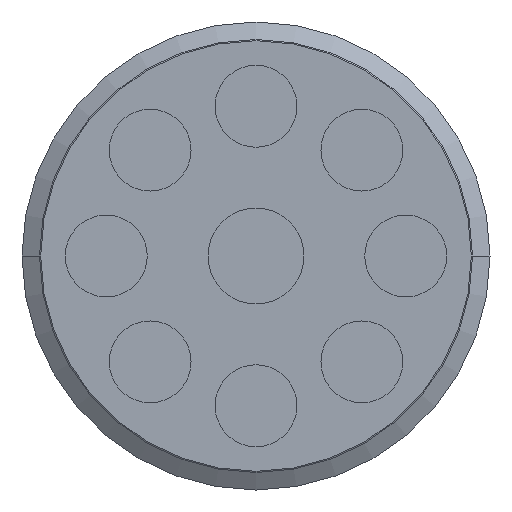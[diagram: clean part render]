
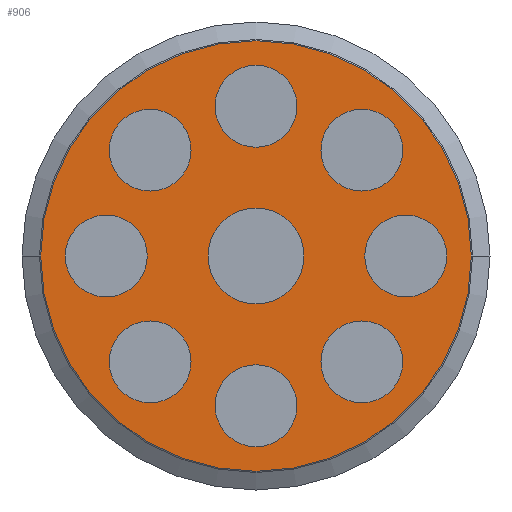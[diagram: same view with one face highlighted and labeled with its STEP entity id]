
A CAD part, left-side view. The second image highlights one B-rep face of the part: STEP entity #906.
In plain terms, the highlighted planar face has unit normal (-1, 0, 0).
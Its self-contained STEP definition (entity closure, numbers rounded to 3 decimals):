
#16=CARTESIAN_POINT('',(0.,0.,0.));
#17=DIRECTION('',(1.,0.,0.));
#18=DIRECTION('',(0.,1.,0.));
#19=AXIS2_PLACEMENT_3D('',#16,#17,#18);
#39=CARTESIAN_POINT('',(0.,0.,0.));
#40=DIRECTION('',(-1.,0.,0.));
#41=DIRECTION('',(0.,1.,0.));
#42=AXIS2_PLACEMENT_3D('',#39,#40,#41);
#63=CARTESIAN_POINT('',(0.,0.,0.));
#64=DIRECTION('',(1.,0.,0.));
#65=DIRECTION('',(0.,1.,0.));
#66=AXIS2_PLACEMENT_3D('',#63,#64,#65);
#71=CARTESIAN_POINT('',(0.,0.,0.));
#72=DIRECTION('',(-1.,0.,0.));
#73=DIRECTION('',(0.,1.,0.));
#74=AXIS2_PLACEMENT_3D('',#71,#72,#73);
#79=CARTESIAN_POINT('',(0.,-4.525,-4.525));
#80=DIRECTION('',(-1.,0.,0.));
#81=DIRECTION('',(0.,1.,0.));
#82=AXIS2_PLACEMENT_3D('',#79,#80,#81);
#87=CARTESIAN_POINT('',(0.,-4.525,-4.525));
#88=DIRECTION('',(-1.,0.,0.));
#89=DIRECTION('',(0.,-1.,0.));
#90=AXIS2_PLACEMENT_3D('',#87,#88,#89);
#95=CARTESIAN_POINT('',(0.,0.,-6.4));
#96=DIRECTION('',(-1.,0.,0.));
#97=DIRECTION('',(0.,1.,0.));
#98=AXIS2_PLACEMENT_3D('',#95,#96,#97);
#103=CARTESIAN_POINT('',(0.,0.,-6.4));
#104=DIRECTION('',(-1.,0.,0.));
#105=DIRECTION('',(0.,-1.,0.));
#106=AXIS2_PLACEMENT_3D('',#103,#104,#105);
#111=CARTESIAN_POINT('',(0.,4.525,-4.525));
#112=DIRECTION('',(-1.,0.,0.));
#113=DIRECTION('',(0.,1.,0.));
#114=AXIS2_PLACEMENT_3D('',#111,#112,#113);
#119=CARTESIAN_POINT('',(0.,4.525,-4.525));
#120=DIRECTION('',(-1.,0.,0.));
#121=DIRECTION('',(0.,-1.,0.));
#122=AXIS2_PLACEMENT_3D('',#119,#120,#121);
#127=CARTESIAN_POINT('',(0.,6.4,0.));
#128=DIRECTION('',(-1.,0.,0.));
#129=DIRECTION('',(0.,1.,0.));
#130=AXIS2_PLACEMENT_3D('',#127,#128,#129);
#135=CARTESIAN_POINT('',(0.,6.4,0.));
#136=DIRECTION('',(-1.,0.,0.));
#137=DIRECTION('',(0.,-1.,0.));
#138=AXIS2_PLACEMENT_3D('',#135,#136,#137);
#143=CARTESIAN_POINT('',(0.,4.525,4.525));
#144=DIRECTION('',(-1.,0.,0.));
#145=DIRECTION('',(0.,1.,0.));
#146=AXIS2_PLACEMENT_3D('',#143,#144,#145);
#151=CARTESIAN_POINT('',(0.,4.525,4.525));
#152=DIRECTION('',(-1.,0.,0.));
#153=DIRECTION('',(0.,-1.,0.));
#154=AXIS2_PLACEMENT_3D('',#151,#152,#153);
#159=CARTESIAN_POINT('',(0.,0.,6.4));
#160=DIRECTION('',(-1.,0.,0.));
#161=DIRECTION('',(0.,1.,0.));
#162=AXIS2_PLACEMENT_3D('',#159,#160,#161);
#167=CARTESIAN_POINT('',(0.,0.,6.4));
#168=DIRECTION('',(-1.,0.,0.));
#169=DIRECTION('',(0.,-1.,0.));
#170=AXIS2_PLACEMENT_3D('',#167,#168,#169);
#175=CARTESIAN_POINT('',(0.,-4.525,4.525));
#176=DIRECTION('',(-1.,0.,0.));
#177=DIRECTION('',(0.,1.,0.));
#178=AXIS2_PLACEMENT_3D('',#175,#176,#177);
#183=CARTESIAN_POINT('',(0.,-4.525,4.525));
#184=DIRECTION('',(-1.,0.,0.));
#185=DIRECTION('',(0.,-1.,0.));
#186=AXIS2_PLACEMENT_3D('',#183,#184,#185);
#191=CARTESIAN_POINT('',(0.,-6.4,0.));
#192=DIRECTION('',(-1.,0.,0.));
#193=DIRECTION('',(0.,1.,0.));
#194=AXIS2_PLACEMENT_3D('',#191,#192,#193);
#199=CARTESIAN_POINT('',(0.,-6.4,0.));
#200=DIRECTION('',(-1.,0.,0.));
#201=DIRECTION('',(0.,-1.,0.));
#202=AXIS2_PLACEMENT_3D('',#199,#200,#201);
#739=CARTESIAN_POINT('',(0.,-2.775,-4.525));
#740=CARTESIAN_POINT('',(0.,-6.275,-4.525));
#741=VERTEX_POINT('',#739);
#742=VERTEX_POINT('',#740);
#743=CARTESIAN_POINT('',(0.,1.75,-6.4));
#744=CARTESIAN_POINT('',(0.,-1.75,-6.4));
#745=VERTEX_POINT('',#743);
#746=VERTEX_POINT('',#744);
#747=CARTESIAN_POINT('',(0.,6.275,-4.525));
#748=CARTESIAN_POINT('',(0.,2.775,-4.525));
#749=VERTEX_POINT('',#747);
#750=VERTEX_POINT('',#748);
#751=CARTESIAN_POINT('',(0.,8.15,0.));
#752=CARTESIAN_POINT('',(0.,4.65,0.));
#753=VERTEX_POINT('',#751);
#754=VERTEX_POINT('',#752);
#755=CARTESIAN_POINT('',(0.,6.275,4.525));
#756=CARTESIAN_POINT('',(0.,2.775,4.525));
#757=VERTEX_POINT('',#755);
#758=VERTEX_POINT('',#756);
#759=CARTESIAN_POINT('',(0.,1.75,6.4));
#760=CARTESIAN_POINT('',(0.,-1.75,6.4));
#761=VERTEX_POINT('',#759);
#762=VERTEX_POINT('',#760);
#763=CARTESIAN_POINT('',(0.,-2.775,4.525));
#764=CARTESIAN_POINT('',(0.,-6.275,4.525));
#765=VERTEX_POINT('',#763);
#766=VERTEX_POINT('',#764);
#767=CARTESIAN_POINT('',(0.,-4.65,0.));
#768=CARTESIAN_POINT('',(0.,-8.15,0.));
#769=VERTEX_POINT('',#767);
#770=VERTEX_POINT('',#768);
#771=CARTESIAN_POINT('',(0.,9.2,0.));
#772=VERTEX_POINT('',#771);
#773=CARTESIAN_POINT('',(0.,-9.2,0.));
#774=VERTEX_POINT('',#773);
#795=CARTESIAN_POINT('',(0.,2.05,0.));
#797=VERTEX_POINT('',#795);
#799=CARTESIAN_POINT('',(0.,-2.05,0.));
#801=VERTEX_POINT('',#799);
#843=CARTESIAN_POINT('',(0.,0.,0.));
#844=DIRECTION('',(1.,0.,0.));
#845=DIRECTION('',(0.,-1.,0.));
#846=AXIS2_PLACEMENT_3D('',#843,#844,#845);
#847=PLANE('',#846);
#849=ORIENTED_EDGE('',*,*,#848,.T.);
#851=ORIENTED_EDGE('',*,*,#850,.F.);
#852=EDGE_LOOP('',(#849,#851));
#853=FACE_OUTER_BOUND('',#852,.F.);
#854=ORIENTED_EDGE('',*,*,#828,.T.);
#855=ORIENTED_EDGE('',*,*,#810,.F.);
#856=EDGE_LOOP('',(#854,#855));
#857=FACE_BOUND('',#856,.F.);
#859=ORIENTED_EDGE('',*,*,#858,.T.);
#861=ORIENTED_EDGE('',*,*,#860,.T.);
#862=EDGE_LOOP('',(#859,#861));
#863=FACE_BOUND('',#862,.F.);
#865=ORIENTED_EDGE('',*,*,#864,.T.);
#867=ORIENTED_EDGE('',*,*,#866,.T.);
#868=EDGE_LOOP('',(#865,#867));
#869=FACE_BOUND('',#868,.F.);
#871=ORIENTED_EDGE('',*,*,#870,.T.);
#873=ORIENTED_EDGE('',*,*,#872,.T.);
#874=EDGE_LOOP('',(#871,#873));
#875=FACE_BOUND('',#874,.F.);
#877=ORIENTED_EDGE('',*,*,#876,.T.);
#879=ORIENTED_EDGE('',*,*,#878,.T.);
#880=EDGE_LOOP('',(#877,#879));
#881=FACE_BOUND('',#880,.F.);
#883=ORIENTED_EDGE('',*,*,#882,.T.);
#885=ORIENTED_EDGE('',*,*,#884,.T.);
#886=EDGE_LOOP('',(#883,#885));
#887=FACE_BOUND('',#886,.F.);
#889=ORIENTED_EDGE('',*,*,#888,.T.);
#891=ORIENTED_EDGE('',*,*,#890,.T.);
#892=EDGE_LOOP('',(#889,#891));
#893=FACE_BOUND('',#892,.F.);
#895=ORIENTED_EDGE('',*,*,#894,.T.);
#897=ORIENTED_EDGE('',*,*,#896,.T.);
#898=EDGE_LOOP('',(#895,#897));
#899=FACE_BOUND('',#898,.F.);
#901=ORIENTED_EDGE('',*,*,#900,.T.);
#903=ORIENTED_EDGE('',*,*,#902,.T.);
#904=EDGE_LOOP('',(#901,#903));
#905=FACE_BOUND('',#904,.F.);
#20=CIRCLE('',#19,2.05);
#43=CIRCLE('',#42,2.05);
#67=CIRCLE('',#66,9.2);
#75=CIRCLE('',#74,9.2);
#83=CIRCLE('',#82,1.75);
#91=CIRCLE('',#90,1.75);
#99=CIRCLE('',#98,1.75);
#107=CIRCLE('',#106,1.75);
#115=CIRCLE('',#114,1.75);
#123=CIRCLE('',#122,1.75);
#131=CIRCLE('',#130,1.75);
#139=CIRCLE('',#138,1.75);
#147=CIRCLE('',#146,1.75);
#155=CIRCLE('',#154,1.75);
#163=CIRCLE('',#162,1.75);
#171=CIRCLE('',#170,1.75);
#179=CIRCLE('',#178,1.75);
#187=CIRCLE('',#186,1.75);
#195=CIRCLE('',#194,1.75);
#203=CIRCLE('',#202,1.75);
#810=EDGE_CURVE('',#797,#801,#20,.T.);
#828=EDGE_CURVE('',#797,#801,#43,.T.);
#848=EDGE_CURVE('',#772,#774,#67,.T.);
#850=EDGE_CURVE('',#772,#774,#75,.T.);
#858=EDGE_CURVE('',#741,#742,#83,.T.);
#860=EDGE_CURVE('',#742,#741,#91,.T.);
#864=EDGE_CURVE('',#745,#746,#99,.T.);
#866=EDGE_CURVE('',#746,#745,#107,.T.);
#870=EDGE_CURVE('',#749,#750,#115,.T.);
#872=EDGE_CURVE('',#750,#749,#123,.T.);
#876=EDGE_CURVE('',#753,#754,#131,.T.);
#878=EDGE_CURVE('',#754,#753,#139,.T.);
#882=EDGE_CURVE('',#757,#758,#147,.T.);
#884=EDGE_CURVE('',#758,#757,#155,.T.);
#888=EDGE_CURVE('',#761,#762,#163,.T.);
#890=EDGE_CURVE('',#762,#761,#171,.T.);
#894=EDGE_CURVE('',#765,#766,#179,.T.);
#896=EDGE_CURVE('',#766,#765,#187,.T.);
#900=EDGE_CURVE('',#769,#770,#195,.T.);
#902=EDGE_CURVE('',#770,#769,#203,.T.);
#906=ADVANCED_FACE('',(#853,#857,#863,#869,#875,#881,#887,#893,#899,#905),#847,
.F.);
